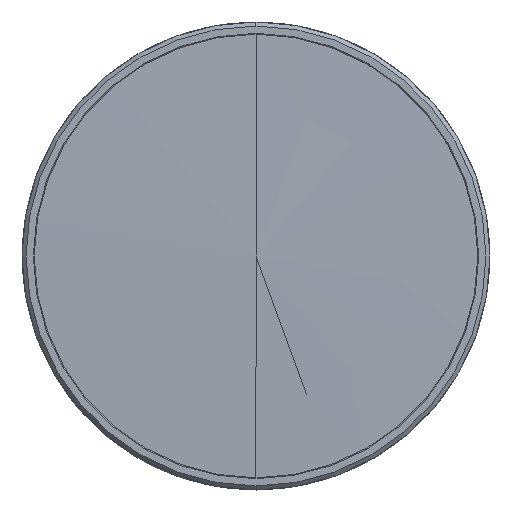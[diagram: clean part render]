
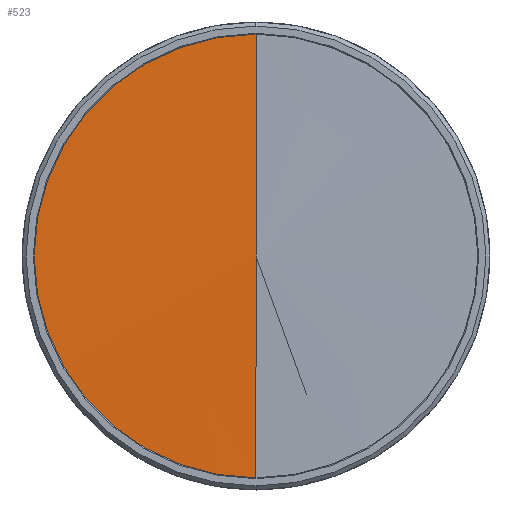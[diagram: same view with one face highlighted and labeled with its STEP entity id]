
A CAD part, left-side view. The second image highlights one B-rep face of the part: STEP entity #523.
In plain terms, the highlighted conical face has half-angle 88.97 degrees and reference radius 139.006 mm.
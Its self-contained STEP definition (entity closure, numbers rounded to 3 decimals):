
#85 = CARTESIAN_POINT ( 'NONE',  ( 2.438, 0., 135.55 ) ) ;
#523 = ADVANCED_FACE ( 'NONE', ( #4344 ), #1991, .T. ) ;
#697 = CARTESIAN_POINT ( 'NONE',  ( 2.5, 0., 0. ) ) ;
#957 = CARTESIAN_POINT ( 'NONE',  ( 2.438, 0., -135.55 ) ) ;
#1334 = CARTESIAN_POINT ( 'NONE',  ( 2.5, 0., 139.006 ) ) ;
#1452 = AXIS2_PLACEMENT_3D ( 'NONE', #2550, #3975, #1579 ) ;
#1454 = ORIENTED_EDGE ( 'NONE', *, *, #3460, .T. ) ;
#1579 = DIRECTION ( 'NONE',  ( 0., 0., -1. ) ) ;
#1991 = CONICAL_SURFACE ( 'NONE', #2686, 139.006, 1.553 ) ;
#2074 = ORIENTED_EDGE ( 'NONE', *, *, #2722, .F. ) ;
#2129 = VERTEX_POINT ( 'NONE', #957 ) ;
#2550 = CARTESIAN_POINT ( 'NONE',  ( 2.438, 0., 0. ) ) ;
#2686 = AXIS2_PLACEMENT_3D ( 'NONE', #697, #4017, #4999 ) ;
#2722 = EDGE_CURVE ( 'NONE', #3924, #2129, #5746, .T. ) ;
#3254 = CARTESIAN_POINT ( 'NONE',  ( 0., 0., 0. ) ) ;
#3460 = EDGE_CURVE ( 'NONE', #3924, #5526, #3509, .T. ) ;
#3509 = LINE ( 'NONE', #1334, #6064 ) ;
#3714 = EDGE_CURVE ( 'NONE', #2129, #5526, #3891, .T. ) ;
#3891 = CIRCLE ( 'NONE', #1452, 135.55 ) ;
#3924 = VERTEX_POINT ( 'NONE', #3254 ) ;
#3975 = DIRECTION ( 'NONE',  ( 1., 0., 0. ) ) ;
#4017 = DIRECTION ( 'NONE',  ( 1., 0., 0. ) ) ;
#4344 = FACE_OUTER_BOUND ( 'NONE', #5002, .T. ) ;
#4488 = ORIENTED_EDGE ( 'NONE', *, *, #3714, .F. ) ;
#4999 = DIRECTION ( 'NONE',  ( 0., 0., -1. ) ) ;
#5002 = EDGE_LOOP ( 'NONE', ( #2074, #1454, #4488 ) ) ;
#5014 = VECTOR ( 'NONE', #6066, 1000. ) ;
#5062 = DIRECTION ( 'NONE',  ( 0.018, 0., 1. ) ) ;
#5526 = VERTEX_POINT ( 'NONE', #85 ) ;
#5604 = CARTESIAN_POINT ( 'NONE',  ( 2.5, 0., -139.006 ) ) ;
#5746 = LINE ( 'NONE', #5604, #5014 ) ;
#6064 = VECTOR ( 'NONE', #5062, 1000. ) ;
#6066 = DIRECTION ( 'NONE',  ( 0.018, 0., -1. ) ) ;
